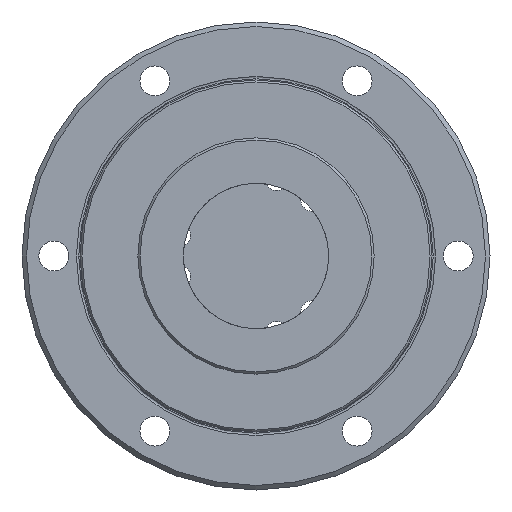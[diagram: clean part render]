
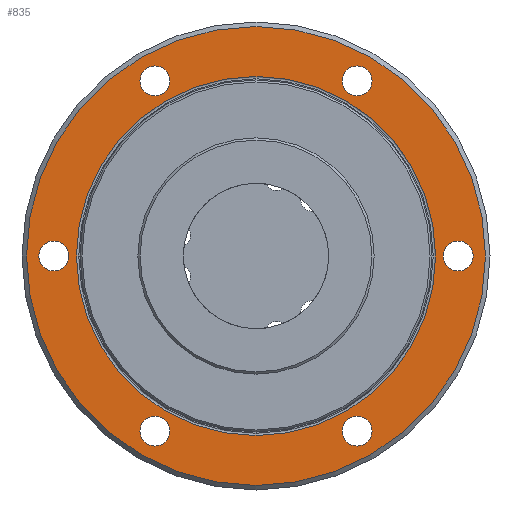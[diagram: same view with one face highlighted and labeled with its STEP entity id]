
A CAD part, left-side view. The second image highlights one B-rep face of the part: STEP entity #835.
In plain terms, the highlighted planar face has unit normal (-1, 0, 0).
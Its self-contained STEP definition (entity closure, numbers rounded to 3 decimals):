
#65=PLANE('',#962);
#191=ORIENTED_EDGE('',*,*,#323,.F.);
#192=ORIENTED_EDGE('',*,*,#324,.F.);
#193=ORIENTED_EDGE('',*,*,#325,.F.);
#194=ORIENTED_EDGE('',*,*,#326,.F.);
#195=ORIENTED_EDGE('',*,*,#327,.F.);
#196=ORIENTED_EDGE('',*,*,#328,.F.);
#197=ORIENTED_EDGE('',*,*,#329,.F.);
#198=ORIENTED_EDGE('',*,*,#322,.T.);
#322=EDGE_CURVE('',#400,#400,#484,.T.);
#323=EDGE_CURVE('',#401,#401,#485,.T.);
#324=EDGE_CURVE('',#402,#402,#486,.F.);
#325=EDGE_CURVE('',#403,#403,#487,.F.);
#326=EDGE_CURVE('',#404,#404,#488,.F.);
#327=EDGE_CURVE('',#405,#405,#489,.F.);
#328=EDGE_CURVE('',#406,#406,#490,.F.);
#329=EDGE_CURVE('',#407,#407,#491,.F.);
#400=VERTEX_POINT('',#1455);
#401=VERTEX_POINT('',#1458);
#402=VERTEX_POINT('',#1460);
#403=VERTEX_POINT('',#1462);
#404=VERTEX_POINT('',#1464);
#405=VERTEX_POINT('',#1466);
#406=VERTEX_POINT('',#1468);
#407=VERTEX_POINT('',#1470);
#484=CIRCLE('',#961,39.512);
#485=CIRCLE('',#963,50.5);
#486=CIRCLE('',#964,3.3);
#487=CIRCLE('',#965,3.3);
#488=CIRCLE('',#966,3.3);
#489=CIRCLE('',#967,3.3);
#490=CIRCLE('',#968,3.3);
#491=CIRCLE('',#969,3.3);
#565=EDGE_LOOP('',(#191));
#566=EDGE_LOOP('',(#192));
#567=EDGE_LOOP('',(#193));
#568=EDGE_LOOP('',(#194));
#569=EDGE_LOOP('',(#195));
#570=EDGE_LOOP('',(#196));
#571=EDGE_LOOP('',(#197));
#572=EDGE_LOOP('',(#198));
#687=FACE_BOUND('',#565,.T.);
#688=FACE_BOUND('',#566,.T.);
#689=FACE_BOUND('',#567,.T.);
#690=FACE_BOUND('',#568,.T.);
#691=FACE_BOUND('',#569,.T.);
#692=FACE_BOUND('',#570,.T.);
#693=FACE_BOUND('',#571,.T.);
#694=FACE_BOUND('',#572,.T.);
#835=ADVANCED_FACE('',(#687,#688,#689,#690,#691,#692,#693,#694),#65,.F.);
#961=AXIS2_PLACEMENT_3D('',#1454,#1183,#1184);
#962=AXIS2_PLACEMENT_3D('',#1456,#1185,#1186);
#963=AXIS2_PLACEMENT_3D('',#1457,#1187,#1188);
#964=AXIS2_PLACEMENT_3D('',#1459,#1189,#1190);
#965=AXIS2_PLACEMENT_3D('',#1461,#1191,#1192);
#966=AXIS2_PLACEMENT_3D('',#1463,#1193,#1194);
#967=AXIS2_PLACEMENT_3D('',#1465,#1195,#1196);
#968=AXIS2_PLACEMENT_3D('',#1467,#1197,#1198);
#969=AXIS2_PLACEMENT_3D('',#1469,#1199,#1200);
#1183=DIRECTION('',(1.,0.,0.));
#1184=DIRECTION('',(0.,0.,-1.));
#1185=DIRECTION('',(1.,0.,0.));
#1186=DIRECTION('',(0.,0.,-1.));
#1187=DIRECTION('',(1.,0.,0.));
#1188=DIRECTION('',(0.,0.,-1.));
#1189=DIRECTION('',(1.,0.,0.));
#1190=DIRECTION('',(0.,0.,-1.));
#1191=DIRECTION('',(1.,0.,0.));
#1192=DIRECTION('',(0.,0.,-1.));
#1193=DIRECTION('',(1.,0.,0.));
#1194=DIRECTION('',(0.,0.,-1.));
#1195=DIRECTION('',(1.,0.,0.));
#1196=DIRECTION('',(0.,0.,-1.));
#1197=DIRECTION('',(1.,0.,0.));
#1198=DIRECTION('',(0.,0.,-1.));
#1199=DIRECTION('',(1.,0.,0.));
#1200=DIRECTION('',(0.,0.,-1.));
#1454=CARTESIAN_POINT('',(55.,0.,0.));
#1455=CARTESIAN_POINT('',(55.,0.,-39.512));
#1456=CARTESIAN_POINT('',(55.,39.512,0.));
#1457=CARTESIAN_POINT('',(55.,0.,0.));
#1458=CARTESIAN_POINT('',(55.,0.,-50.5));
#1459=CARTESIAN_POINT('',(55.,44.5,0.));
#1460=CARTESIAN_POINT('',(55.,44.5,-3.3));
#1461=CARTESIAN_POINT('',(55.,22.25,-38.538));
#1462=CARTESIAN_POINT('',(55.,22.25,-41.838));
#1463=CARTESIAN_POINT('',(55.,-22.25,-38.538));
#1464=CARTESIAN_POINT('',(55.,-22.25,-41.838));
#1465=CARTESIAN_POINT('',(55.,-44.5,0.));
#1466=CARTESIAN_POINT('',(55.,-44.5,-3.3));
#1467=CARTESIAN_POINT('',(55.,-22.25,38.538));
#1468=CARTESIAN_POINT('',(55.,-22.25,35.238));
#1469=CARTESIAN_POINT('',(55.,22.25,38.538));
#1470=CARTESIAN_POINT('',(55.,22.25,35.238));
